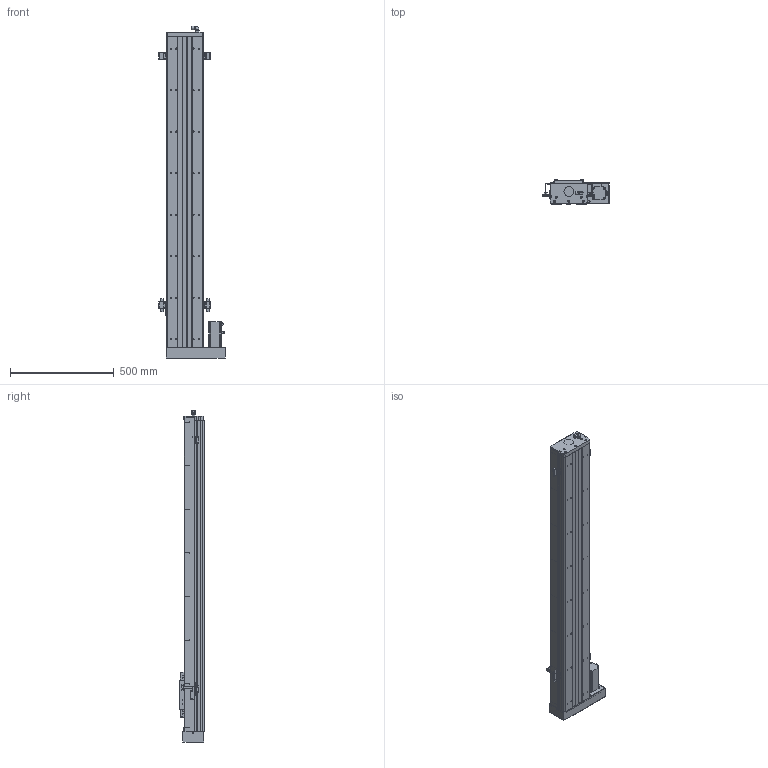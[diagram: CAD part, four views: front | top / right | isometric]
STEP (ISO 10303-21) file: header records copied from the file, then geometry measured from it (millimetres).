
FILE_DESCRIPTION (( 'STEP AP203' ), '1' );
FILE_NAME ('JDBS-180-P -S1200L-2L.STEP', '2012-09-11T03:58:08', ( 'USER' ), ( 'SHARE' ), 'SwSTEP 2.0', 'SolidWorks 2007', '' );
FILE_SCHEMA (( 'CONFIG_CONTROL_DESIGN' ));
Products named in the file (1): JDBS-180-P  -S1200L-2L
Bounding box: 319 x 116.5 x 1598.9 mm (x, y, z)
Volume: 8530370.3 mm3; surface area: 2789516.7 mm2
Topology: 29 solids, 29 shells, 1775 faces, 4928 edges, 3248 vertices
Faces by surface type: cylinder 961, plane 792, cone 12, sphere 8, torus 2
Entity records: 59979 total; most frequent: CARTESIAN_POINT 12064, DIRECTION 10265, ORIENTED_EDGE 9840, EDGE_CURVE 4920, AXIS2_PLACEMENT_3D 3743, VERTEX_POINT 3248, VECTOR 2779, LINE 2779
